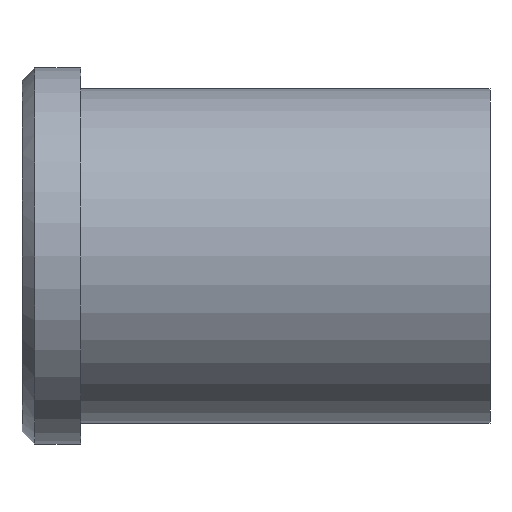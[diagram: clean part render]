
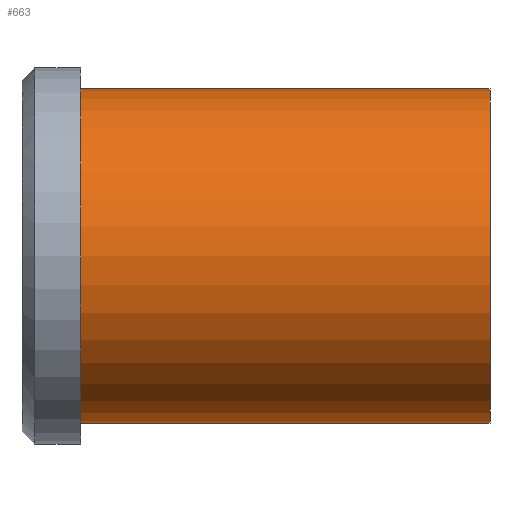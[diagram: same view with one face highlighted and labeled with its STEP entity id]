
A CAD part, front view. The second image highlights one B-rep face of the part: STEP entity #663.
In plain terms, the highlighted cylindrical face has radius 20 mm (diameter 40 mm), a partial arc.
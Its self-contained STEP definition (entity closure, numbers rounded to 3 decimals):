
#501=CARTESIAN_POINT('Vertex',(0.,0.,-20.)) ;
#506=CARTESIAN_POINT('Axis2P3D Location',(0.,0.,0.)) ;
#510=CARTESIAN_POINT('Vertex',(0.,-20.,0.)) ;
#513=CARTESIAN_POINT('Axis2P3D Location',(0.,0.,0.)) ;
#517=CARTESIAN_POINT('Vertex',(0.,0.,20.)) ;
#603=CARTESIAN_POINT('Line Origine',(49.,0.,20.)) ;
#607=CARTESIAN_POINT('Vertex',(49.,0.,20.)) ;
#621=CARTESIAN_POINT('Vertex',(49.,0.,-20.)) ;
#624=CARTESIAN_POINT('Line Origine',(49.,0.,-20.)) ;
#638=CARTESIAN_POINT('Axis2P3D Location',(49.,0.,0.)) ;
#643=CARTESIAN_POINT('Axis2P3D Location',(49.,0.,0.)) ;
#647=CARTESIAN_POINT('Vertex',(49.,-20.,0.)) ;
#650=CARTESIAN_POINT('Axis2P3D Location',(49.,0.,0.)) ;
#507=DIRECTION('Axis2P3D Direction',(1.,0.,-0.)) ;
#514=DIRECTION('Axis2P3D Direction',(1.,0.,-0.)) ;
#604=DIRECTION('Vector Direction',(-1.,0.,0.)) ;
#625=DIRECTION('Vector Direction',(-1.,0.,0.)) ;
#639=DIRECTION('Axis2P3D Direction',(-1.,-0.,-0.)) ;
#640=DIRECTION('Axis2P3D XDirection',(0.,0.,-1.)) ;
#644=DIRECTION('Axis2P3D Direction',(-1.,-0.,-0.)) ;
#651=DIRECTION('Axis2P3D Direction',(-1.,-0.,-0.)) ;
#508=AXIS2_PLACEMENT_3D('Circle Axis2P3D',#506,#507,$) ;
#515=AXIS2_PLACEMENT_3D('Circle Axis2P3D',#513,#514,$) ;
#641=AXIS2_PLACEMENT_3D('Cylinder Axis2P3D',#638,#639,#640) ;
#645=AXIS2_PLACEMENT_3D('Circle Axis2P3D',#643,#644,$) ;
#652=AXIS2_PLACEMENT_3D('Circle Axis2P3D',#650,#651,$) ;
#656=ORIENTED_EDGE('',*,*,#628,.T.) ;
#657=ORIENTED_EDGE('',*,*,#649,.F.) ;
#658=ORIENTED_EDGE('',*,*,#654,.F.) ;
#659=ORIENTED_EDGE('',*,*,#609,.T.) ;
#660=ORIENTED_EDGE('',*,*,#519,.T.) ;
#661=ORIENTED_EDGE('',*,*,#512,.T.) ;
#605=VECTOR('Line Direction',#604,1.) ;
#626=VECTOR('Line Direction',#625,1.) ;
#663=ADVANCED_FACE('353-32X56',(#662),#642,.T.) ;
#509=CIRCLE('generated circle',#508,20.) ;
#516=CIRCLE('generated circle',#515,20.) ;
#646=CIRCLE('generated circle',#645,20.) ;
#653=CIRCLE('generated circle',#652,20.) ;
#642=CYLINDRICAL_SURFACE('generated cylinder',#641,20.) ;
#512=EDGE_CURVE('',#511,#502,#509,.T.) ;
#519=EDGE_CURVE('',#518,#511,#516,.T.) ;
#609=EDGE_CURVE('',#608,#518,#606,.T.) ;
#628=EDGE_CURVE('',#502,#622,#627,.F.) ;
#649=EDGE_CURVE('',#648,#622,#646,.F.) ;
#654=EDGE_CURVE('',#608,#648,#653,.F.) ;
#655=EDGE_LOOP('',(#656,#657,#658,#659,#660,#661)) ;
#662=FACE_OUTER_BOUND('',#655,.T.) ;
#606=LINE('Line',#603,#605) ;
#627=LINE('Line',#624,#626) ;
#502=VERTEX_POINT('',#501) ;
#511=VERTEX_POINT('',#510) ;
#518=VERTEX_POINT('',#517) ;
#608=VERTEX_POINT('',#607) ;
#622=VERTEX_POINT('',#621) ;
#648=VERTEX_POINT('',#647) ;
